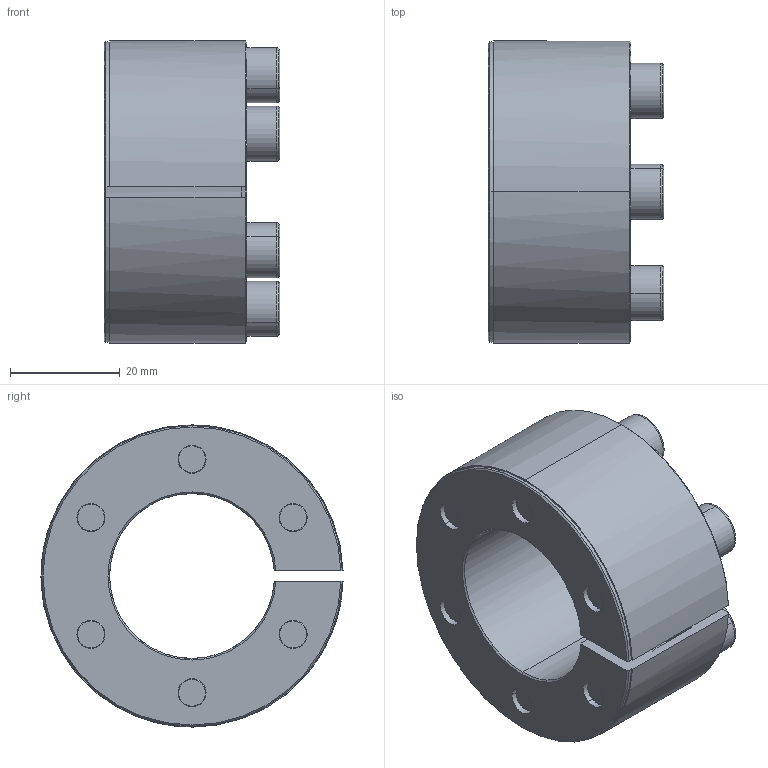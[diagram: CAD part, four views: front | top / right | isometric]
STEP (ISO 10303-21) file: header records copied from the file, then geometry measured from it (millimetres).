
FILE_DESCRIPTION (( 'STEP AP214' ), '1' );
FILE_NAME ('SAPL-E-30-55.STEP', '2024-07-12T02:19:06', ( '决扁浅何厘' ), ( '' ), 'SwSTEP 2.0', 'SolidWorks 2024', '' );
FILE_SCHEMA (( 'AUTOMOTIVE_DESIGN' ));
Length unit declared in the file: millimetre
Products named in the file (1): SAPL-E-30-55
Bounding box: 31.99 x 54.98 x 55 mm (x, y, z)
Volume: 33781.3 mm3; surface area: 20150.3 mm2
Topology: 1 solids, 1 shells, 257 faces, 619 edges, 370 vertices
Faces by surface type: plane 92, cylinder 66, cone 51, torus 48
Entity records: 7585 total; most frequent: CARTESIAN_POINT 1419, DIRECTION 1405, ORIENTED_EDGE 1214, EDGE_CURVE 607, AXIS2_PLACEMENT_3D 573, VERTEX_POINT 370, CIRCLE 315, EDGE_LOOP 295
